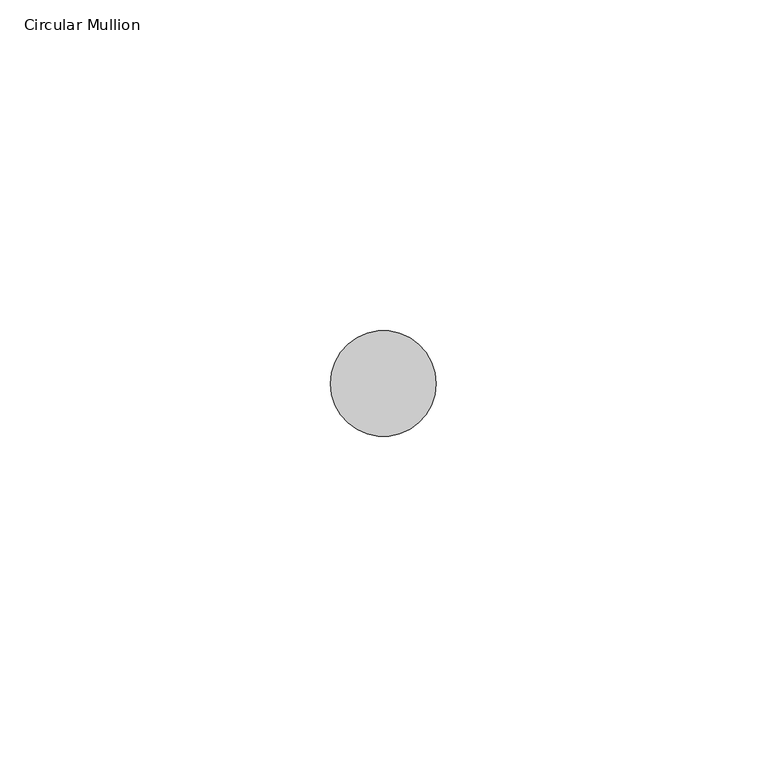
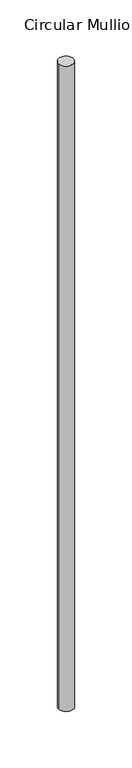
"""IFC4 building model written with IfcOpenShell, lengths in millimetres: member geometry, Circular Mullion : ARQ_HERR_16mm."""

from ifc_helpers import new_model, si_unit, point, frame, origin, origin_2d, place, context, project, spatial, circle_curve, trimmed, segment, composite_curve, outline, extrude, source, transform, mapped, element, save


def circular_mullion_b6a7991f(model_context):
    return source(origin(), model_context, "Body", "SweptSolid", [
        extrude(outline(composite_curve([segment(trimmed(circle_curve(origin_2d(), 8.0), [point((8.0, 0.0))], [point((-8.0, 0.0))], False, "CARTESIAN"), True, "CONTINUOUS"), segment(trimmed(circle_curve(origin_2d(), 8.0), [point((-8.0, 0.0))], [point((8.0, 0.0))], False, "CARTESIAN"), True, "CONTINUOUS")], self_intersect=False)), frame((0.0, 0.0, -725.2127975), z_axis=(0.0, 0.0, 1.0), x_axis=(1.0, 0.0, 0.0)), (0.0, 0.0, 1.0), 725.2127975),
    ])


if __name__ == "__main__":
    model = new_model("IFC4")
    model_context = context("Model", 3, world=origin())
    ifc_project = project(units=[si_unit("LENGTHUNIT", "METRE", prefix="MILLI")], contexts=[model_context])
    site = spatial("IfcSite", under=ifc_project)
    building = spatial("IfcBuilding", under=site)
    placement = place(None, origin())
    circular_mullion_shape = circular_mullion_b6a7991f(model_context)
    element("IfcMember", 1, ObjectType="Circular Mullion : ARQ_HERR_16mm", at=placement, inside=building, context=model_context, shape_type="MappedRepresentation", body=[
        mapped(circular_mullion_shape, transform((0.0, 0.0, 0.0), x_axis=(1.0, 0.0, 0.0), y_axis=(0.0, 1.0, 0.0), z_axis=(0.0, 0.0, 1.0))),
    ])
    save(model, "model.ifc")
